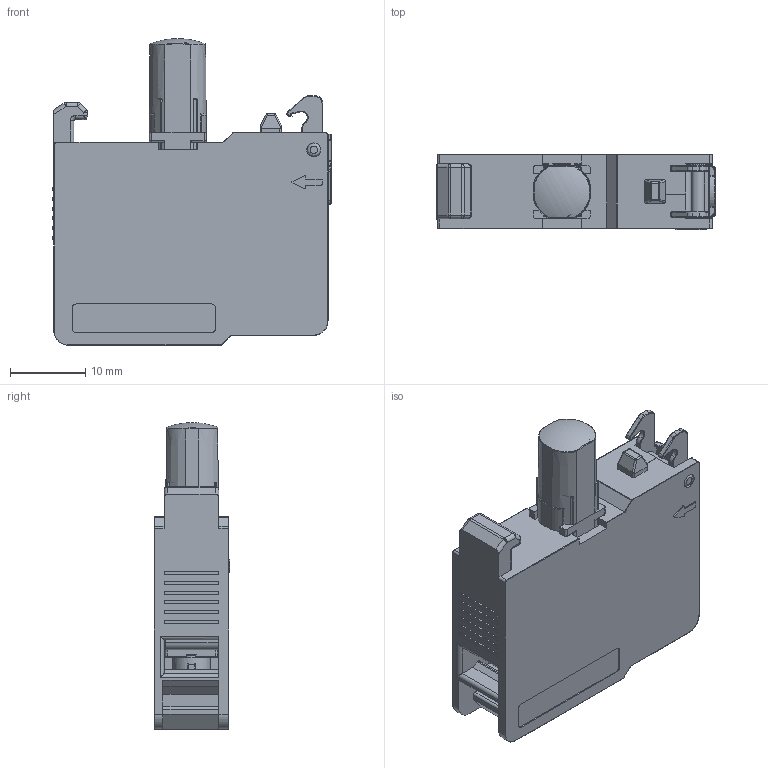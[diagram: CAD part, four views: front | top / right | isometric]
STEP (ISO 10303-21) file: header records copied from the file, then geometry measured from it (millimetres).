
FILE_DESCRIPTION(/* description */ (''),/* implementation_level */ '2;1');
FILE_NAME(/* name */ '22SA2-灯.stp',/* time_stamp */ '2024-05-17T16:04:58+08:00',/* author */ (''),/* organization */ (''),/* preprocessor_version */ 'ST-DEVELOPER v16',/* originating_system */ 'SIEMENS PLM Software NX 10.0',/* authorisation */ '');
FILE_SCHEMA (('AUTOMOTIVE_DESIGN { 1 0 10303 214 3 1 1 1 }'));
Products named in the file (1): Admi20CC3240lue9
Bounding box: 37.2 x 10.05 x 40.8 mm (x, y, z)
Volume: 5974.2 mm3; surface area: 10011.9 mm2
Topology: 1 solids, 9 shells, 1678 faces, 4582 edges, 2894 vertices
Faces by surface type: plane 883, cylinder 437, extrusion 131, revolution 122, bspline 75, cone 26, sphere 3, torus 1
Full cylindrical faces by diameter (mm): 1.2 x2, 1.45 x2, 1.5 x2, 1.75 x2, 1.8 x3, 1.85 x1, 1.95 x2, 2.1 x1, 2.12 x2, 2.15 x2, 2.2 x2, 2.4 x1, 3 x2, 4.3 x2, 4.98 x2, 5.02 x2, 6 x2
Entity records: 57022 total; most frequent: CARTESIAN_POINT 16307, ORIENTED_EDGE 9032, DIRECTION 7735, EDGE_CURVE 4516, VERTEX_POINT 2875, VECTOR 2855, LINE 2724, AXIS2_PLACEMENT_3D 2379
